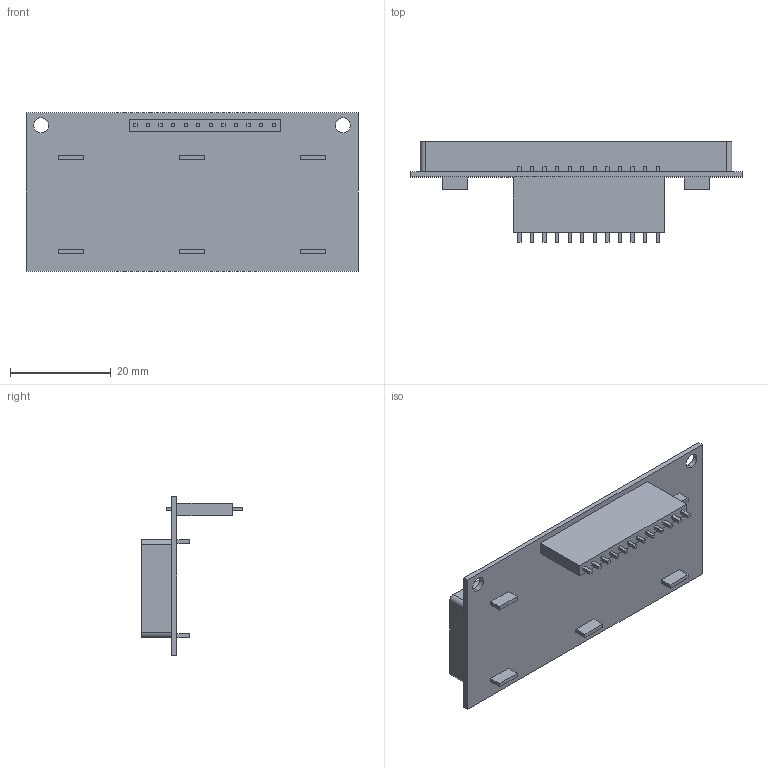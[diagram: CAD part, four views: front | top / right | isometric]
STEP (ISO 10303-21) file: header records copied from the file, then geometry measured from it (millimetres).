
FILE_DESCRIPTION (( 'STEP AP214' ), '1' );
FILE_NAME ('MT-10T7-7.STEP', '2013-03-28T12:29:50', ( 'Tester2' ), ( '' ), 'SwSTEP 2.0', 'SolidWorks 2012', '' );
FILE_SCHEMA (( 'AUTOMOTIVE_DESIGN' ));
Length unit declared in the file: millimetre
Products named in the file (1): MT-10T7-7
Bounding box: 66 x 20 x 31.5 mm (x, y, z)
Volume: 10076.3 mm3; surface area: 6383.7 mm2
Topology: 1 solids, 1 shells, 287 faces, 756 edges, 504 vertices
Faces by surface type: plane 219, cylinder 68
Entity records: 10905 total; most frequent: CARTESIAN_POINT 1548, ORIENTED_EDGE 1512, DIRECTION 1468, EDGE_CURVE 756, VECTOR 620, LINE 620, VERTEX_POINT 504, AXIS2_PLACEMENT_3D 424
